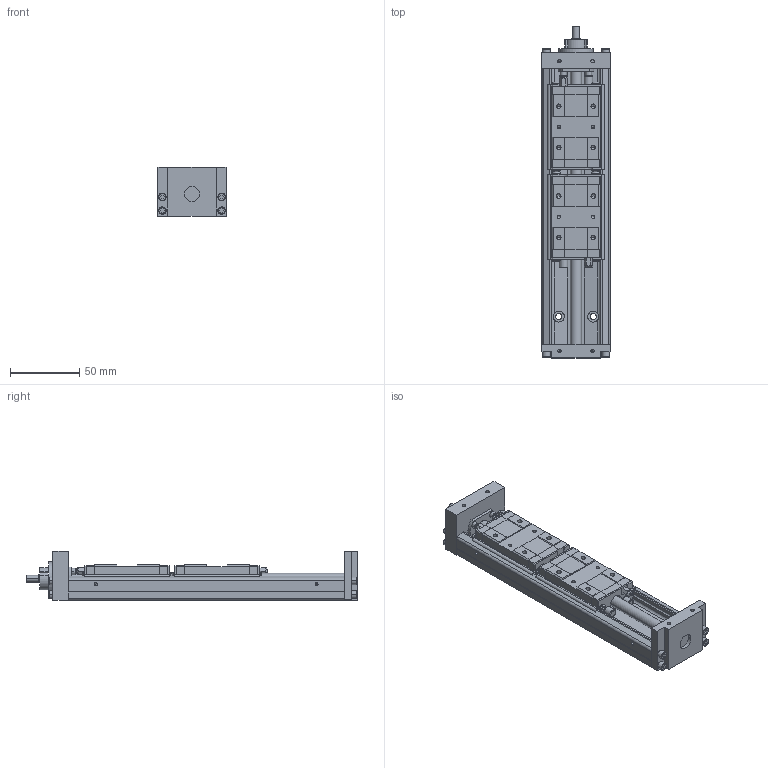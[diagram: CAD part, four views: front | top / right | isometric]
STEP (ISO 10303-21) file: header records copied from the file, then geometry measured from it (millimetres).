
FILE_DESCRIPTION(('no description'),'unknown implementation level');
FILE_NAME('KK5002P200A2H0000_FILE_24.stp',' ',('HIWIN GmbH'),('CADClick - KiM GmbH - www.kimweb.de'),'unknown preprocess','ACIS','unknown authorization');
FILE_SCHEMA(('automotive_design'));
Length unit declared in the file: millimetre
Products named in the file (3): KK5002P200A2H0000_FILE_1; KK50_FILE; KK5002P200A2H0000_FILE
Bounding box: 50 x 240.5 x 36 mm (x, y, z)
Volume: 210057.2 mm3; surface area: 69918.7 mm2
Topology: 3 solids, 15 shells, 919 faces, 2338 edges, 1477 vertices
Faces by surface type: plane 558, cylinder 239, cone 70, torus 52
Entity records: 54523 total; most frequent: CARTESIAN_POINT 5623, DIRECTION 4818, STYLED_ITEM 4699, PRESENTATION_STYLE_ASSIGNMENT 4699, COLOUR_RGB 4699, ORIENTED_EDGE 4600, EDGE_CURVE 2300, CURVE_STYLE 2300
